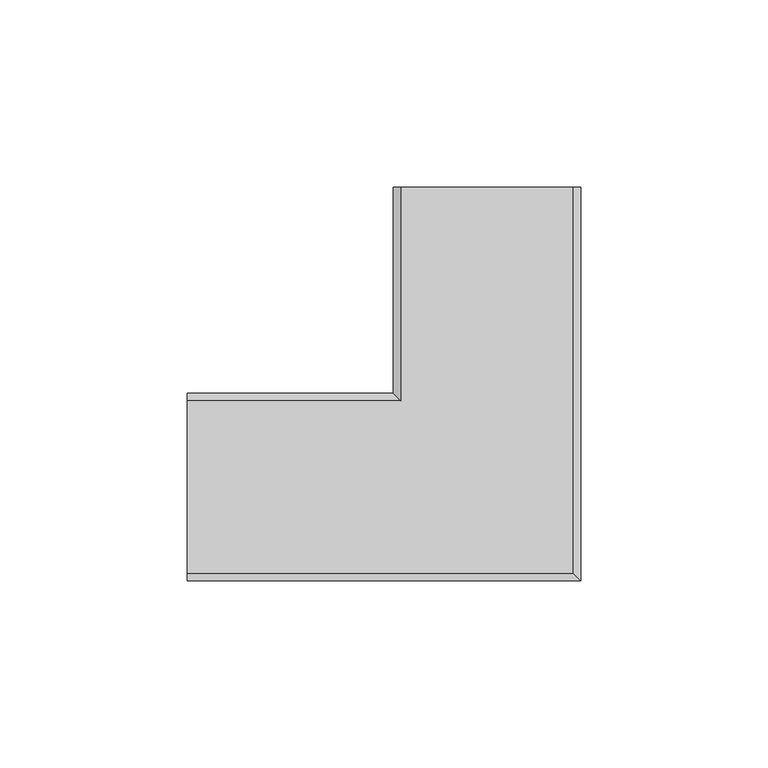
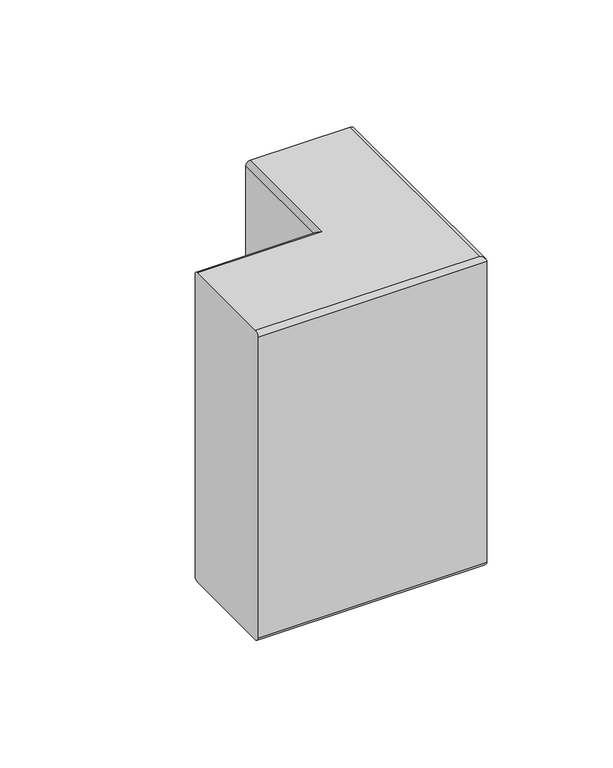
"""IFC4 building model written with IfcOpenShell, lengths in millimetres: duct fitting geometry, Угол плоский 90° - для односекционных кабель-каналов DLP - белый : 50х150мм."""

from ifc_helpers import new_model, si_unit, frame, origin, place, context, project, spatial, circle_curve, ellipse_curve, source, transform, mapped, element, save
from ifc_brep_helpers import plane_surface, cylinder_surface, advanced_brep


def duct_fitting_8c5198b3(model_context):
    return source(origin(), model_context, "Body", "AdvancedBrep", [
        advanced_brep(
        [(41.9265001, 59.3417726, 71.2223119), (43.9265001, 59.3417726, 69.2223119), (43.9265001, 59.3417726, -76.7776881), (41.9265001, 59.3417726, -78.7776881), (-4.0734999, 59.3417726, -78.7776881), (-6.0734999, 59.3417726, -76.7776881), (-6.0734999, 59.3417726, 69.2223119), (-4.0734999, 59.3417726, 71.2223119), (41.9265001, -43.6582274, 71.2223119), (43.9265001, -45.6582274, 69.2223119), (43.9265001, -45.6582274, -76.7776881), (41.9265001, -43.6582274, -78.7776881), (-61.0734999, -43.6582274, -78.7776881), (-61.0734999, 2.3417726, -78.7776881), (-4.0734999, 2.3417726, -78.7776881), (-6.0734999, 4.3417726, -76.7776881), (-6.0734999, 4.3417726, 69.2223119), (-4.0734999, 2.3417726, 71.2223119), (-61.0734999, 2.3417726, 71.2223119), (-61.0734999, -43.6582274, 71.2223119), (-61.0734999, 4.3417726, 69.2223119), (-61.0734999, 4.3417726, -76.7776881), (-61.0734999, -45.6582274, -76.7776881), (-61.0734999, -45.6582274, 69.2223119)],
        [
            (0, 1, circle_curve(frame((41.9265001, 59.3417726, 69.2223119), z_axis=(0.0, 1.0, 0.0), x_axis=(1.0, 0.0, 0.0)), 2.0)),
            (1, 2),
            (2, 3, circle_curve(frame((41.9265001, 59.3417726, -76.7776881), z_axis=(0.0, 1.0, 0.0), x_axis=(1.0, 0.0, 0.0)), 2.0)),
            (3, 4),
            (4, 5, circle_curve(frame((-4.0734999, 59.3417726, -76.7776881), z_axis=(0.0, 1.0, 0.0), x_axis=(1.0, 0.0, 0.0)), 2.0)),
            (5, 6),
            (6, 7, circle_curve(frame((-4.0734999, 59.3417726, 69.2223119), z_axis=(0.0, 1.0, 0.0), x_axis=(1.0, 0.0, 0.0)), 2.0)),
            (7, 0),
            (0, 8),
            (8, 9, ellipse_curve(frame((41.9265001, -43.6582274, 69.2223119), z_axis=(0.7071067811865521, 0.7071067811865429, 0.0), x_axis=(-0.7071067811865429, 0.7071067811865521, 0.0)), 2.8284271, 2.0)),
            (9, 1),
            (9, 10),
            (10, 2),
            (10, 11, ellipse_curve(frame((41.9265001, -43.6582274, -76.7776881), z_axis=(0.7071067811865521, 0.7071067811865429, 0.0), x_axis=(-0.7071067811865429, 0.7071067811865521, 0.0)), 2.8284271, 2.0)),
            (11, 3),
            (11, 12),
            (12, 13),
            (13, 14),
            (14, 4),
            (14, 15, ellipse_curve(frame((-4.0734999, 2.3417726, -76.7776881), z_axis=(0.7071067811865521, 0.7071067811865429, 0.0), x_axis=(-0.7071067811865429, 0.7071067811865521, 0.0)), 2.8284271, 2.0)),
            (15, 5),
            (15, 16),
            (16, 6),
            (16, 17, ellipse_curve(frame((-4.0734999, 2.3417726, 69.2223119), z_axis=(0.7071067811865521, 0.7071067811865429, 0.0), x_axis=(-0.7071067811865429, 0.7071067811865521, 0.0)), 2.8284271, 2.0)),
            (17, 7),
            (17, 18),
            (18, 19),
            (19, 8),
            (18, 20, circle_curve(frame((-61.0734999, 2.3417726, 69.2223119), z_axis=(-1.0, 0.0, 0.0), x_axis=(0.0, -1.0, 0.0)), 2.0)),
            (20, 21),
            (21, 13, circle_curve(frame((-61.0734999, 2.3417726, -76.7776881), z_axis=(-1.0, 0.0, 0.0), x_axis=(0.0, -1.0, 0.0)), 2.0)),
            (12, 22, circle_curve(frame((-61.0734999, -43.6582274, -76.7776881), z_axis=(-1.0, 0.0, 0.0), x_axis=(0.0, -1.0, 0.0)), 2.0)),
            (22, 23),
            (23, 19, circle_curve(frame((-61.0734999, -43.6582274, 69.2223119), z_axis=(-1.0, 0.0, 0.0), x_axis=(0.0, -1.0, 0.0)), 2.0)),
            (23, 9),
            (22, 10),
            (21, 15),
            (20, 16),
        ],
        [
            plane_surface(frame((18.9265001, 59.3417726, -3.7776881), z_axis=(0.0, 1.0, 0.0), x_axis=(0.0, 0.0, 1.0))),
            cylinder_surface(frame((41.9265001, 59.3417726, 69.2223119), z_axis=(0.0, 1.0, 0.0), x_axis=(1.0, 0.0, 0.0)), 2.0),
            plane_surface(frame((43.9265001, 59.3417726, 69.2223119), z_axis=(1.0, 0.0, 0.0), x_axis=(0.0, -1.0, 0.0))),
            cylinder_surface(frame((41.9265001, 59.3417726, -76.7776881), z_axis=(0.0, 1.0, 0.0), x_axis=(1.0, 0.0, 0.0)), 2.0),
            plane_surface(frame((41.9265001, 59.3417726, -78.7776881), z_axis=(0.0, 0.0, -1.0), x_axis=(0.0, -1.0, 0.0))),
            cylinder_surface(frame((-4.0734999, 59.3417726, -76.7776881), z_axis=(0.0, 1.0, 0.0), x_axis=(1.0, 0.0, 0.0)), 2.0),
            plane_surface(frame((-6.0734999, 59.3417726, -76.7776881), z_axis=(-1.0, 0.0, 0.0), x_axis=(0.0, -1.0, 0.0))),
            cylinder_surface(frame((-4.0734999, 59.3417726, 69.2223119), z_axis=(0.0, 1.0, 0.0), x_axis=(1.0, 0.0, 0.0)), 2.0),
            plane_surface(frame((-4.0734999, 59.3417726, 71.2223119), z_axis=(0.0, 0.0, 1.0), x_axis=(0.0, -1.0, 0.0))),
            plane_surface(frame((-61.0734999, -20.6582274, -3.7776881), z_axis=(-1.0, 0.0, 0.0), x_axis=(0.0, 0.0, 1.0))),
            cylinder_surface(frame((18.9265001, -43.6582274, 69.2223119), z_axis=(1.0, 0.0, 0.0), x_axis=(0.0, -1.0, 0.0)), 2.0),
            plane_surface(frame((43.9265001, -45.6582274, 69.2223119), z_axis=(0.0, -1.0, 0.0), x_axis=(-1.0, 0.0, 0.0))),
            cylinder_surface(frame((18.9265001, -43.6582274, -76.7776881), z_axis=(1.0, 0.0, 0.0), x_axis=(0.0, -1.0, 0.0)), 2.0),
            cylinder_surface(frame((18.9265001, 2.3417726, -76.7776881), z_axis=(1.0, 0.0, 0.0), x_axis=(0.0, -1.0, 0.0)), 2.0),
            plane_surface(frame((-6.0734999, 4.3417726, -76.7776881), z_axis=(0.0, 1.0, 0.0), x_axis=(-1.0, 0.0, 0.0))),
            cylinder_surface(frame((18.9265001, 2.3417726, 69.2223119), z_axis=(1.0, 0.0, 0.0), x_axis=(0.0, -1.0, 0.0)), 2.0),
        ],
        [
            (0, [[1, 2, 3, 4, 5, 6, 7, 8]]),
            (1, [[-1, 9, 10, 11]]),
            (2, [[-2, -11, 12, 13]]),
            (3, [[-3, -13, 14, 15]]),
            (4, [[-4, -15, 16, 17, 18, 19]]),
            (5, [[-5, -19, 20, 21]]),
            (6, [[-6, -21, 22, 23]]),
            (7, [[-7, -23, 24, 25]]),
            (8, [[-8, -25, 26, 27, 28, -9]]),
            (9, [[-27, 29, 30, 31, -17, 32, 33, 34]]),
            (10, [[-10, -28, -34, 35]]),
            (11, [[-12, -35, -33, 36]]),
            (12, [[-14, -36, -32, -16]]),
            (13, [[-20, -18, -31, 37]]),
            (14, [[-22, -37, -30, 38]]),
            (15, [[-24, -38, -29, -26]]),
        ],
    ),
    ])


if __name__ == "__main__":
    model = new_model("IFC4")
    model_context = context("Model", 3, world=origin())
    ifc_project = project(units=[si_unit("LENGTHUNIT", "METRE", prefix="MILLI")], contexts=[model_context])
    site = spatial("IfcSite", under=ifc_project)
    building = spatial("IfcBuilding", under=site)
    placement = place(None, origin())
    duct_fitting_shape = duct_fitting_8c5198b3(model_context)
    element("IfcDuctFitting", 1, ObjectType="Угол плоский 90° - для односекционных кабель-каналов DLP - белый : 50х150мм", at=placement, inside=building, context=model_context, shape_type="MappedRepresentation", body=[
        mapped(duct_fitting_shape, transform((0.0, 0.0, 0.0), x_axis=(1.0, 0.0, 0.0), y_axis=(0.0, 1.0, 0.0), z_axis=(0.0, 0.0, 1.0))),
    ])
    save(model, "model.ifc")
